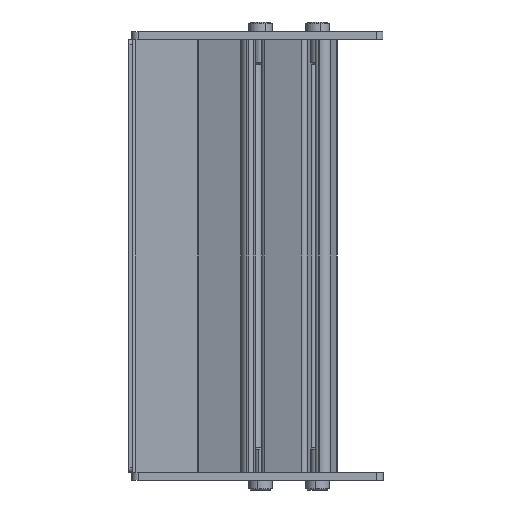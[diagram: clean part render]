
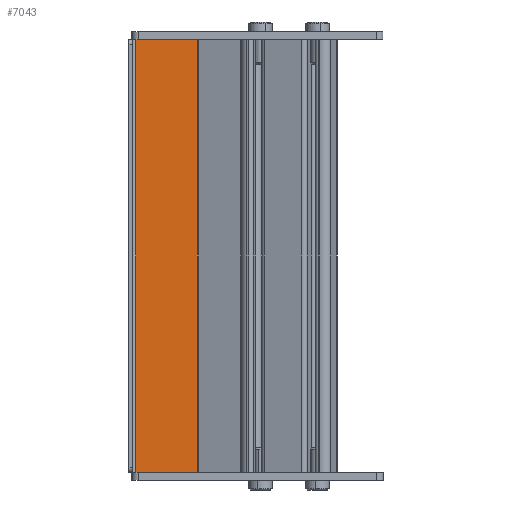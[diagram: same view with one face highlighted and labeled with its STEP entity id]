
A CAD part, left-side view. The second image highlights one B-rep face of the part: STEP entity #7043.
In plain terms, the highlighted planar face has unit normal (-1, 0, 0) as drawn and (1, 0, 0) by its records, which use the part's own axes.
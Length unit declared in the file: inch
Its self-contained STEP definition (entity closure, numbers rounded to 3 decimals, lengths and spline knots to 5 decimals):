
#6413=DIRECTION('',(0.,-1.,0.));
#6414=VECTOR('',#6413,0.88707);
#6415=CARTESIAN_POINT('',(0.048,0.904,-3.118));
#6416=LINE('',#6415,#6414);
#6451=DIRECTION('',(0.,0.,-1.));
#6452=VECTOR('',#6451,6.236);
#6453=CARTESIAN_POINT('',(0.048,0.904,3.118));
#6454=LINE('',#6453,#6452);
#6459=DIRECTION('',(0.,-1.,0.));
#6460=VECTOR('',#6459,0.88707);
#6461=CARTESIAN_POINT('',(0.048,0.904,3.118));
#6462=LINE('',#6461,#6460);
#6467=DIRECTION('',(0.,0.,1.));
#6468=VECTOR('',#6467,6.236);
#6469=CARTESIAN_POINT('',(0.048,0.01693,-3.118));
#6470=LINE('',#6469,#6468);
#6753=CARTESIAN_POINT('',(0.048,0.904,-3.118));
#6754=CARTESIAN_POINT('',(0.048,0.01693,-3.118));
#6755=VERTEX_POINT('',#6753);
#6756=VERTEX_POINT('',#6754);
#6761=CARTESIAN_POINT('',(0.048,0.01693,3.118));
#6762=VERTEX_POINT('',#6761);
#6763=CARTESIAN_POINT('',(0.048,0.904,3.118));
#6765=VERTEX_POINT('',#6763);
#7030=CARTESIAN_POINT('',(0.048,0.,3.118));
#7031=DIRECTION('',(-1.,0.,0.));
#7032=DIRECTION('',(0.,0.,1.));
#7033=AXIS2_PLACEMENT_3D('',#7030,#7031,#7032);
#7034=PLANE('',#7033);
#7035=ORIENTED_EDGE('',*,*,#6956,.T.);
#7037=ORIENTED_EDGE('',*,*,#7036,.T.);
#7039=ORIENTED_EDGE('',*,*,#7038,.F.);
#7040=ORIENTED_EDGE('',*,*,#7023,.T.);
#7041=EDGE_LOOP('',(#7035,#7037,#7039,#7040));
#7042=FACE_OUTER_BOUND('',#7041,.F.);
#6956=EDGE_CURVE('',#6755,#6756,#6416,.T.);
#7023=EDGE_CURVE('',#6765,#6755,#6454,.T.);
#7036=EDGE_CURVE('',#6756,#6762,#6470,.T.);
#7038=EDGE_CURVE('',#6765,#6762,#6462,.T.);
#7043=ADVANCED_FACE('',(#7042),#7034,.F.);
